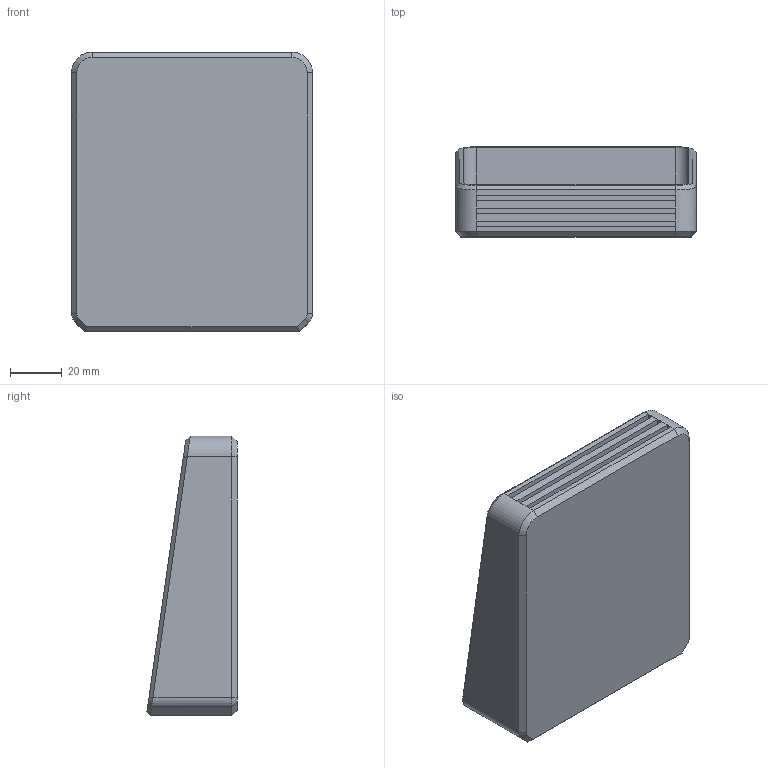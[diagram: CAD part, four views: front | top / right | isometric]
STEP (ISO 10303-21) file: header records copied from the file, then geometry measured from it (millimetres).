
FILE_DESCRIPTION(/* description */ (''),/* implementation_level */ '2;1');
FILE_NAME(/* name */ 'Bottom.step',/* time_stamp */ '2025-08-10T15:21:27+08:00',/* author */ (''),/* organization */ (''),/* preprocessor_version */ 'ST-DEVELOPER v20.1',/* originating_system */ 'Autodesk Translation Framework v14.10.0.0',/* authorisation */ '');
FILE_SCHEMA (('AUTOMOTIVE_DESIGN { 1 0 10303 214 3 1 1 }'));
Length unit declared in the file: millimetre
Products named in the file (1): Sticky note holder with stencils
Bounding box: 93 x 34.79 x 108 mm (x, y, z)
Volume: 171063 mm3; surface area: 68993.4 mm2
Topology: 1 solids, 1 shells, 64 faces, 153 edges, 92 vertices
Faces by surface type: plane 42, bspline 10, cylinder 8, cone 4
Entity records: 2004 total; most frequent: CARTESIAN_POINT 544, ORIENTED_EDGE 306, DIRECTION 259, EDGE_CURVE 153, LINE 117, VECTOR 117, VERTEX_POINT 92, AXIS2_PLACEMENT_3D 71
